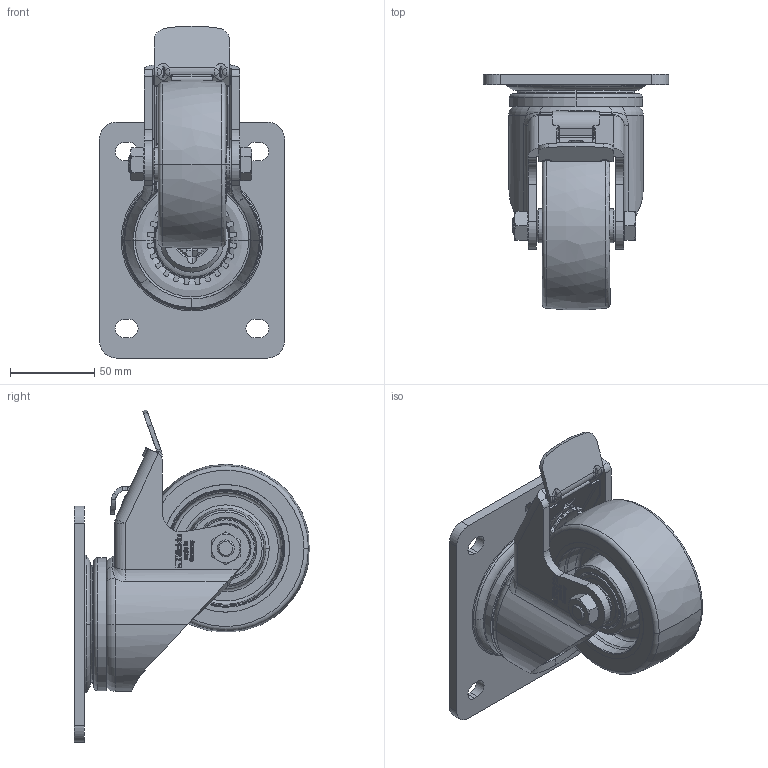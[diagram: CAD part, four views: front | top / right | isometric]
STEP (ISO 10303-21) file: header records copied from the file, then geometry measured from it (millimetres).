
FILE_DESCRIPTION (( 'STEP AP214' ), '1' );
FILE_NAME ('LH-GTH_100K-3-FI_595678-214.step', '2022-01-01T10:07:02', ( '' ), ( '' ), 'SwSTEP 2.0', 'SolidWorks 2018', '' );
FILE_SCHEMA (( 'AUTOMOTIVE_DESIGN' ));
Length unit declared in the file: millimetre
Products named in the file (5): GTH_3D_G16_GTH_100_15K_266312; GTH_100_15K_G16_3D; GH-LH-100x45-03-FI_15x40_G16_3D; GH-LH_80-100_GH-LH-100x45-03-FI_15x40; LH-GTH_100K-3-FI_595678-214
Assembly tree (4 placements, depth 3):
  LH-GTH_100K-3-FI_595678-214
    GH-LH_80-100_GH-LH-100x45-03-FI_15x40
      GH-LH-100x45-03-FI_15x40_G16_3D
    GTH_3D_G16_GTH_100_15K_266312
      GTH_100_15K_G16_3D
Bounding box: 110 x 139.88 x 197.14 mm (x, y, z)
Volume: 502556.4 mm3; surface area: 146910 mm2
Topology: 2 solids, 9 shells, 3369 faces, 9015 edges, 5833 vertices
Faces by surface type: plane 1498, bspline 997, cylinder 551, torus 161, cone 154, sphere 8
Entity records: 132465 total; most frequent: CARTESIAN_POINT 47695, ORIENTED_EDGE 18014, DIRECTION 12676, EDGE_CURVE 9007, VERTEX_POINT 5833, VECTOR 4930, LINE 4930, AXIS2_PLACEMENT_3D 3873
